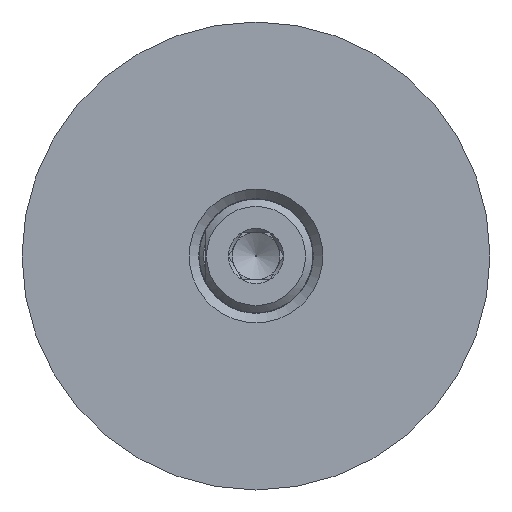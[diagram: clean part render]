
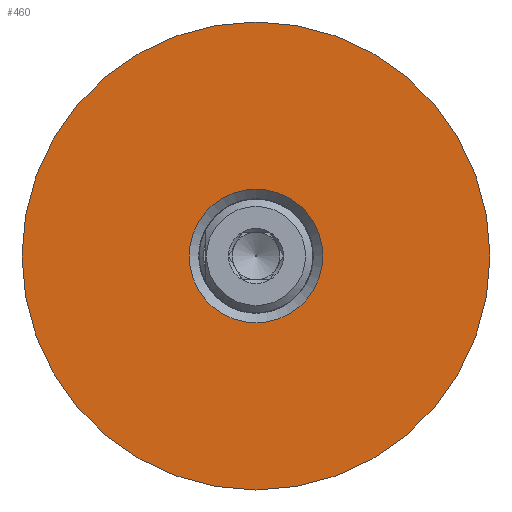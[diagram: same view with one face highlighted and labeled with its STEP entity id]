
A CAD part, left-side view. The second image highlights one B-rep face of the part: STEP entity #460.
In plain terms, the highlighted planar face has unit normal (-1, 0, 0).
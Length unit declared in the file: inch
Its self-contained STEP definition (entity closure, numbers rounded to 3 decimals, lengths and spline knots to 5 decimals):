
#426=CARTESIAN_POINT('',(-1.61,-0.765,1.));
#427=VERTEX_POINT('',#426);
#428=CARTESIAN_POINT('',(-1.61,0.,1.));
#429=DIRECTION('',(-1.0,0.0,0.0));
#430=DIRECTION('',(0.0,-1.0,0.0));
#431=AXIS2_PLACEMENT_3D('',#428,#429,#430);
#432=CIRCLE('',#431,0.765);
#433=EDGE_CURVE('',#427,#427,#432,.T.);
#441=CARTESIAN_POINT('',(-1.61,-0.49175,1.));
#442=DIRECTION('',(-1.0,0.0,0.0));
#443=DIRECTION('',(0.0,0.0,1.0));
#444=AXIS2_PLACEMENT_3D('',#441,#442,#443);
#445=PLANE('',#444);
#446=ORIENTED_EDGE('',*,*,#433,.T.);
#447=EDGE_LOOP('',(#446));
#448=FACE_OUTER_BOUND('',#447,.T.);
#449=CARTESIAN_POINT('',(-1.61,-0.2185,1.));
#450=VERTEX_POINT('',#449);
#451=CARTESIAN_POINT('',(-1.61,0.,1.));
#452=DIRECTION('',(-1.0,0.0,0.0));
#453=DIRECTION('',(0.0,-1.0,0.0));
#454=AXIS2_PLACEMENT_3D('',#451,#452,#453);
#455=CIRCLE('',#454,0.2185);
#456=EDGE_CURVE('',#450,#450,#455,.T.);
#457=ORIENTED_EDGE('',*,*,#456,.F.);
#458=EDGE_LOOP('',(#457));
#459=FACE_BOUND('',#458,.T.);
#460=ADVANCED_FACE('',(#448,#459),#445,.T.);
